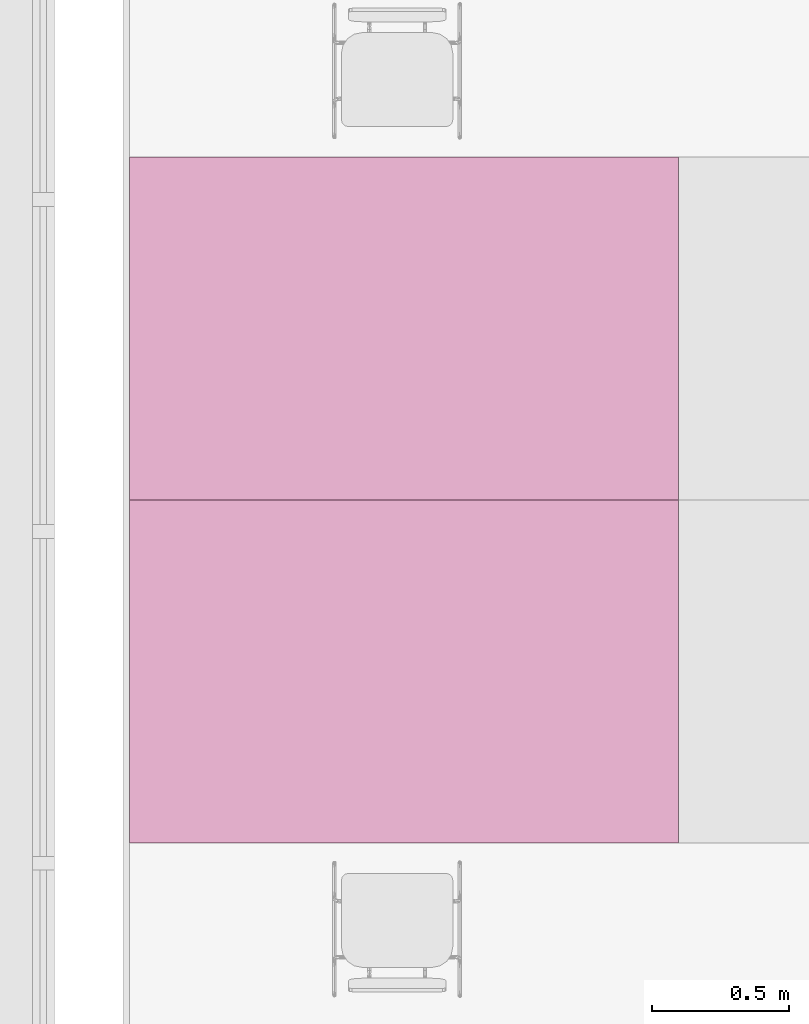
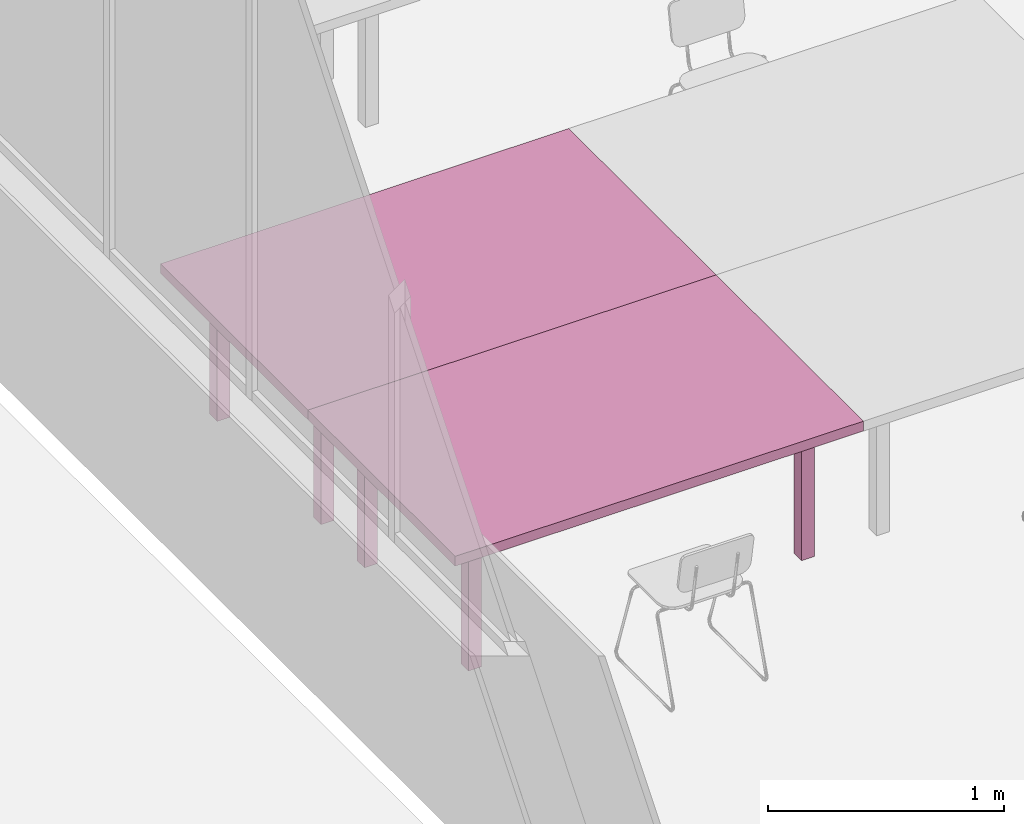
# One storey, part 21 of 27: 2 furnishings.
"""IFC2X3 building model written with IfcOpenShell, lengths in centimetres."""

from ifc_helpers import new_model, entity, si_unit, converted_unit, derived_unit, direction, frame, frame_2d, origin, origin_2d_with_axis, place, context, subcontext, project, spatial, rectangle, extrude, source, transform, mapped, material, material_list, type_object, type_shapes, element, save


model = new_model("IFC2X3")

# Units and contexts
model_context = context("Model", 3, precision=0.001, world=origin(), true_north=direction((6.12303176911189e-17, 1.0)))
body_context = subcontext(model_context, "Body", "Model", "MODEL_VIEW")
ifc_project = project(units=[si_unit("LENGTHUNIT", "METRE", prefix="CENTI"), si_unit("AREAUNIT", "SQUARE_METRE"), si_unit("VOLUMEUNIT", "CUBIC_METRE"), converted_unit("PLANEANGLEUNIT", "DEGREE", entity("IfcRatioMeasure", 0.0174532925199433), si_unit("PLANEANGLEUNIT", "RADIAN"), dimensions=[0, 0, 0, 0, 0, 0, 0]), si_unit("MASSUNIT", "GRAM", prefix="KILO"), derived_unit("MASSDENSITYUNIT", [(si_unit("MASSUNIT", "GRAM", prefix="KILO"), 1), (si_unit("LENGTHUNIT", "METRE"), -3)]), derived_unit("MOMENTOFINERTIAUNIT", [(si_unit("LENGTHUNIT", "METRE"), 4)]), si_unit("TIMEUNIT", "SECOND"), si_unit("FREQUENCYUNIT", "HERTZ"), si_unit("THERMODYNAMICTEMPERATUREUNIT", "DEGREE_CELSIUS"), derived_unit("THERMALTRANSMITTANCEUNIT", [(si_unit("MASSUNIT", "GRAM", prefix="KILO"), 1), (si_unit("THERMODYNAMICTEMPERATUREUNIT", "KELVIN"), -1), (si_unit("TIMEUNIT", "SECOND"), -3)]), derived_unit("VOLUMETRICFLOWRATEUNIT", [(si_unit("LENGTHUNIT", "METRE"), 3), (si_unit("TIMEUNIT", "SECOND"), -1)]), si_unit("ELECTRICCURRENTUNIT", "AMPERE"), si_unit("ELECTRICVOLTAGEUNIT", "VOLT"), si_unit("POWERUNIT", "WATT"), si_unit("FORCEUNIT", "NEWTON", prefix="KILO"), si_unit("ILLUMINANCEUNIT", "LUX"), si_unit("LUMINOUSFLUXUNIT", "LUMEN"), si_unit("LUMINOUSINTENSITYUNIT", "CANDELA"), derived_unit("USERDEFINED", [(si_unit("MASSUNIT", "GRAM", prefix="KILO"), -1), (si_unit("LENGTHUNIT", "METRE"), -2), (si_unit("TIMEUNIT", "SECOND"), 3), (si_unit("LUMINOUSFLUXUNIT", "LUMEN"), 1)]), derived_unit("LINEARVELOCITYUNIT", [(si_unit("LENGTHUNIT", "METRE"), 1), (si_unit("TIMEUNIT", "SECOND"), -1)]), si_unit("PRESSUREUNIT", "PASCAL"), derived_unit("USERDEFINED", [(si_unit("LENGTHUNIT", "METRE"), -2), (si_unit("MASSUNIT", "GRAM", prefix="KILO"), 1), (si_unit("TIMEUNIT", "SECOND"), -2)]), derived_unit("LINEARFORCEUNIT", [(si_unit("MASSUNIT", "GRAM", prefix="KILO"), 1), (si_unit("LENGTHUNIT", "METRE"), 1), (si_unit("TIMEUNIT", "SECOND"), -2), (si_unit("LENGTHUNIT", "METRE"), -1)]), derived_unit("PLANARFORCEUNIT", [(si_unit("MASSUNIT", "GRAM", prefix="KILO"), 1), (si_unit("LENGTHUNIT", "METRE"), 1), (si_unit("TIMEUNIT", "SECOND"), -2), (si_unit("LENGTHUNIT", "METRE"), -2)])], contexts=[model_context])

# Site, building, storey
site_placement = place(None, origin())
site = spatial("IfcSite", under=ifc_project, at=site_placement, Name="Default", CompositionType="ELEMENT")
building_placement = place(site_placement, origin())
building = spatial("IfcBuilding", under=site, at=building_placement, CompositionType="ELEMENT")
storey_placement = place(building_placement, origin())
storey = spatial("IfcBuildingStorey", under=building, at=storey_placement, Name="Poziom 0 A +/-0,00", CompositionType="ELEMENT", Elevation=3.38570427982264e-11)

# Furnishings
ifc_material = material(Name="MDF biały")
ifc_material_list_1 = material_list([ifc_material, ifc_material, ifc_material, ifc_material, ifc_material])
ifc_material_list_2 = material_list([ifc_material, ifc_material, ifc_material, ifc_material, ifc_material])
furniture_type = type_object("IfcFurnitureType", Name="Stół - prostokątny:2000 x 1250", material=ifc_material_list_2)
shared_shape = source(origin(), body_context, "Body", "SweptSolid", [
    extrude(rectangle(XDim=200.0, YDim=125.0, at=origin_2d_with_axis()), frame((0.0, 0.0, 68.92), z_axis=(0.0, 0.0, 1.0), x_axis=(-1.0, 0.0, 0.0)), (0.0, 0.0, 1.0), 5.08),
    extrude(rectangle(XDim=6.35000000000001, YDim=6.35000000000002, at=origin_2d_with_axis()), frame((81.585, 44.0850000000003, 0.0), z_axis=(0.0, 0.0, 1.0), x_axis=(0.0, -1.0, 0.0)), (0.0, 0.0, 1.0), 68.92),
    extrude(rectangle(XDim=6.34999999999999, YDim=6.35000000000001, at=frame_2d((1.35447209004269e-14, -6.88338275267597e-15), x_axis=(1.0, 0.0))), frame((-81.5849999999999, 44.0850000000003, 0.0), z_axis=(0.0, 0.0, 1.0), x_axis=(-1.0, 0.0, 0.0)), (0.0, 0.0, 1.0), 68.92),
    extrude(rectangle(XDim=6.35000000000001, YDim=6.34999999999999, at=origin_2d_with_axis()), frame((-81.585, -44.0850000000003, 0.0), z_axis=(0.0, 0.0, 1.0), x_axis=(0.0, 1.0, 0.0)), (0.0, 0.0, 1.0), 68.92),
    extrude(rectangle(XDim=6.35000000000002, YDim=6.35000000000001, at=frame_2d((0.0, -6.88338275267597e-15), x_axis=(1.0, 0.0))), frame((81.585, -44.0850000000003, 0.0)), (0.0, 0.0, 1.0), 68.92),
])
type_shapes(furniture_type, [shared_shape])
furnishing_1_placement = place(storey_placement, frame((-2806.7650963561, 823.105958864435, 0.6)))
element("IfcFurnishingElement", 1, at=furnishing_1_placement, inside=storey, type_object=furniture_type, material=ifc_material_list_1, Name="Stół - prostokątny:2000 x 1250", ObjectType="Stół - prostokątny:2000 x 1250", context=body_context, shape_type="MappedRepresentation", body=[
    mapped(shared_shape, transform((0.0, 0.0, 0.0), scale=1.0)),
])
furnishing_2_placement = place(storey_placement, frame((-2806.7650963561, 698.105958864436, 0.6)))
element("IfcFurnishingElement", 2, at=furnishing_2_placement, inside=storey, type_object=furniture_type, material=ifc_material, Name="Stół - prostokątny:2000 x 1250", ObjectType="Stół - prostokątny:2000 x 1250", context=body_context, shape_type="MappedRepresentation", body=[
    mapped(shared_shape, transform((0.0, 0.0, 0.0), scale=1.0)),
])

save(model, "model.ifc")
